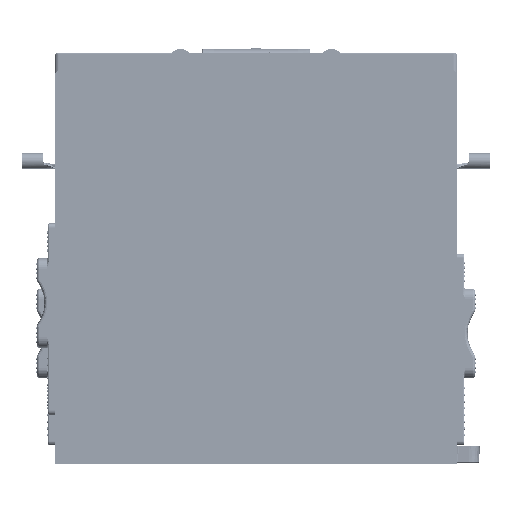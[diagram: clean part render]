
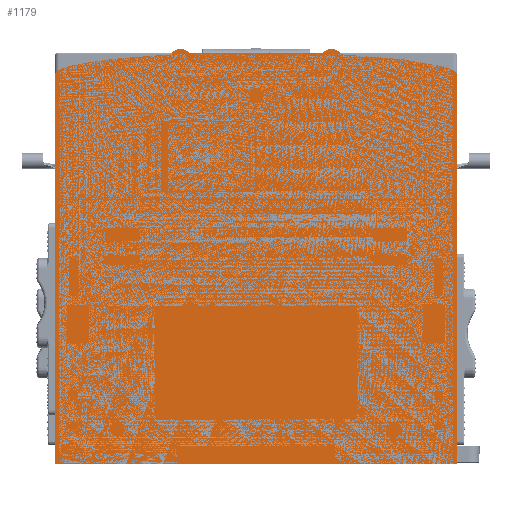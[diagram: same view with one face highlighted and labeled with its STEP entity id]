
A CAD part, left-side view. The second image highlights one B-rep face of the part: STEP entity #1179.
In plain terms, the highlighted planar face has unit normal (-1, 0, 0).
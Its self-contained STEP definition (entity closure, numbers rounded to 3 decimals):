
#16=DIRECTION('',(0.,-1.,0.));
#17=VECTOR('',#16,90.);
#18=CARTESIAN_POINT('',(-57.5,45.,0.));
#19=LINE('',#18,#17);
#45=CARTESIAN_POINT('',(-57.5,14.855,91.72));
#46=CARTESIAN_POINT('',(-57.5,4.952,92.105));
#47=CARTESIAN_POINT('',(-57.5,-4.952,92.105));
#48=CARTESIAN_POINT('',(-57.5,-14.855,91.72));
#53=CARTESIAN_POINT('',(-57.5,-16.865,90.232));
#54=DIRECTION('',(-1.,0.,0.));
#55=DIRECTION('',(0.,-0.854,0.52));
#56=AXIS2_PLACEMENT_3D('',#53,#54,#55);
#61=CARTESIAN_POINT('',(-57.5,-19.,91.532));
#62=CARTESIAN_POINT('',(-57.5,-20.216,91.47));
#63=CARTESIAN_POINT('',(-57.5,-22.633,91.33));
#64=CARTESIAN_POINT('',(-57.5,-26.21,91.074));
#65=CARTESIAN_POINT('',(-57.5,-29.732,90.765));
#66=CARTESIAN_POINT('',(-57.5,-33.186,90.392));
#67=CARTESIAN_POINT('',(-57.5,-35.993,90.014));
#68=CARTESIAN_POINT('',(-57.5,-38.178,89.654));
#69=CARTESIAN_POINT('',(-57.5,-39.779,89.348));
#70=CARTESIAN_POINT('',(-57.5,-41.329,88.993));
#71=CARTESIAN_POINT('',(-57.5,-42.559,88.64));
#72=CARTESIAN_POINT('',(-57.5,-43.482,88.298));
#73=CARTESIAN_POINT('',(-57.5,-44.127,87.998));
#74=CARTESIAN_POINT('',(-57.5,-44.606,87.691));
#75=CARTESIAN_POINT('',(-57.5,-44.901,87.363));
#76=CARTESIAN_POINT('',(-57.5,-45.,87.152));
#77=CARTESIAN_POINT('',(-57.5,-45.,87.));
#82=DIRECTION('',(0.,0.,1.));
#83=VECTOR('',#82,87.);
#84=CARTESIAN_POINT('',(-57.5,45.,0.));
#85=LINE('',#84,#83);
#89=CARTESIAN_POINT('',(-57.5,45.,87.));
#90=CARTESIAN_POINT('',(-57.5,45.,87.152));
#91=CARTESIAN_POINT('',(-57.5,44.901,87.363));
#92=CARTESIAN_POINT('',(-57.5,44.606,87.691));
#93=CARTESIAN_POINT('',(-57.5,44.127,87.998));
#94=CARTESIAN_POINT('',(-57.5,43.482,88.298));
#95=CARTESIAN_POINT('',(-57.5,42.559,88.64));
#96=CARTESIAN_POINT('',(-57.5,41.329,88.993));
#97=CARTESIAN_POINT('',(-57.5,39.779,89.348));
#98=CARTESIAN_POINT('',(-57.5,38.178,89.654));
#99=CARTESIAN_POINT('',(-57.5,35.993,90.014));
#100=CARTESIAN_POINT('',(-57.5,33.186,90.392));
#101=CARTESIAN_POINT('',(-57.5,29.732,90.765));
#102=CARTESIAN_POINT('',(-57.5,26.21,91.074));
#103=CARTESIAN_POINT('',(-57.5,22.633,91.33));
#104=CARTESIAN_POINT('',(-57.5,20.216,91.47));
#105=CARTESIAN_POINT('',(-57.5,19.,91.532));
#110=CARTESIAN_POINT('',(-57.5,16.865,90.232));
#111=DIRECTION('',(-1.,0.,0.));
#112=DIRECTION('',(0.,-0.804,0.595));
#113=AXIS2_PLACEMENT_3D('',#110,#111,#112);
#356=DIRECTION('',(0.,0.,1.));
#357=VECTOR('',#356,87.);
#358=CARTESIAN_POINT('',(-57.5,-45.,0.));
#359=LINE('',#358,#357);
#993=CARTESIAN_POINT('',(-57.5,45.,0.));
#994=CARTESIAN_POINT('',(-57.5,-45.,0.));
#995=VERTEX_POINT('',#993);
#996=VERTEX_POINT('',#994);
#1029=CARTESIAN_POINT('',(-57.5,45.,87.));
#1030=VERTEX_POINT('',#1029);
#1031=CARTESIAN_POINT('',(-57.5,-45.,87.));
#1032=VERTEX_POINT('',#1031);
#1069=VERTEX_POINT('',#105);
#1070=VERTEX_POINT('',#45);
#1071=VERTEX_POINT('',#48);
#1072=VERTEX_POINT('',#61);
#1157=CARTESIAN_POINT('',(-57.5,45.,0.));
#1158=DIRECTION('',(-1.,0.,0.));
#1159=DIRECTION('',(0.,-1.,0.));
#1160=AXIS2_PLACEMENT_3D('',#1157,#1158,#1159);
#1161=PLANE('',#1160);
#1163=ORIENTED_EDGE('',*,*,#1162,.T.);
#1165=ORIENTED_EDGE('',*,*,#1164,.F.);
#1167=ORIENTED_EDGE('',*,*,#1166,.T.);
#1169=ORIENTED_EDGE('',*,*,#1168,.F.);
#1170=ORIENTED_EDGE('',*,*,#1146,.F.);
#1172=ORIENTED_EDGE('',*,*,#1171,.T.);
#1174=ORIENTED_EDGE('',*,*,#1173,.T.);
#1176=ORIENTED_EDGE('',*,*,#1175,.F.);
#1177=EDGE_LOOP('',(#1163,#1165,#1167,#1169,#1170,#1172,#1174,#1176));
#1178=FACE_OUTER_BOUND('',#1177,.F.);
#49=B_SPLINE_CURVE_WITH_KNOTS('',3,(#45,#46,#47,#48),.UNSPECIFIED.,.F.,.F.,(4,
4),(0.,1.),.UNSPECIFIED.);
#57=CIRCLE('',#56,2.5);
#78=B_SPLINE_CURVE_WITH_KNOTS('',3,(#61,#62,#63,#64,#65,#66,#67,#68,#69,#70,#71,
#72,#73,#74,#75,#76,#77),.UNSPECIFIED.,.F.,.F.,(4,1,1,1,1,1,1,1,1,1,1,1,1,1,4),(
0.,0.125,0.25,0.375,0.5,0.625,0.688,0.75,0.813,0.875,
0.906,0.938,0.969,0.984,1.),.UNSPECIFIED.);
#106=B_SPLINE_CURVE_WITH_KNOTS('',3,(#89,#90,#91,#92,#93,#94,#95,#96,#97,#98,
#99,#100,#101,#102,#103,#104,#105),.UNSPECIFIED.,.F.,.F.,(4,1,1,1,1,1,1,1,1,1,1,
1,1,1,4),(0.,0.016,0.031,0.063,0.094,0.125,0.188,0.25,
0.313,0.375,0.5,0.625,0.75,0.875,1.),.UNSPECIFIED.);
#114=CIRCLE('',#113,2.5);
#1146=EDGE_CURVE('',#995,#996,#19,.T.);
#1162=EDGE_CURVE('',#1070,#1071,#49,.T.);
#1164=EDGE_CURVE('',#1072,#1071,#57,.T.);
#1166=EDGE_CURVE('',#1072,#1032,#78,.T.);
#1168=EDGE_CURVE('',#996,#1032,#359,.T.);
#1171=EDGE_CURVE('',#995,#1030,#85,.T.);
#1173=EDGE_CURVE('',#1030,#1069,#106,.T.);
#1175=EDGE_CURVE('',#1070,#1069,#114,.T.);
#1179=ADVANCED_FACE('',(#1178),#1161,.T.);
